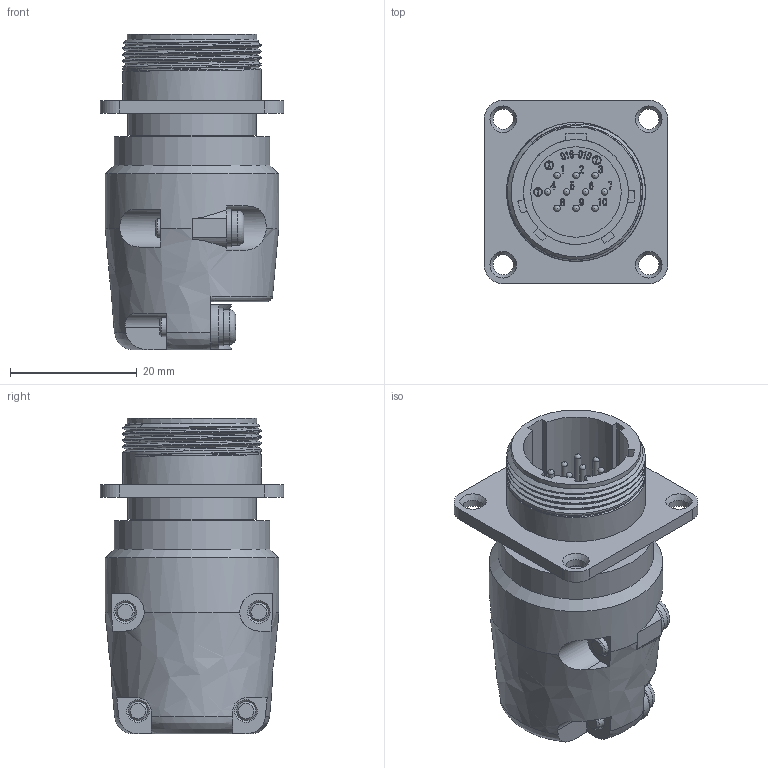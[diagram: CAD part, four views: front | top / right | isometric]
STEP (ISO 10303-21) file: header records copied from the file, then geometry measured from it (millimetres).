
FILE_DESCRIPTION (( 'STEP AP203' ), '1' );
FILE_NAME ('JMWR1610MM-D.STEP', '2021-07-19T08:25:53', ( '' ), ( '' ), 'SwSTEP 2.0', 'SolidWorks 2018', '' );
FILE_SCHEMA (( 'CONFIG_CONTROL_DESIGN' ));
Products named in the file (1): JMWR1610MM-D
Bounding box: 29 x 29 x 49.9 mm (x, y, z)
Volume: 13052.2 mm3; surface area: 10732.9 mm2
Topology: 1 solids, 1 shells, 1096 faces, 2957 edges, 1940 vertices
Faces by surface type: plane 473, bspline 413, cylinder 157, cone 31, torus 12, sphere 10
Full cylindrical faces by diameter (mm): 1 x10, 1.1 x10, 1.2 x4, 1.4 x4, 1.55 x10, 3 x4, 3.2 x4, 5.5 x4, 13.9 x1, 14.3 x1, 15.9 x1, 16.6 x1, 18.8 x2, 20.3 x1, 20.5 x1, 21.96 x4, 22 x1, 24.6 x1, 27.4 x1
Entity records: 52741 total; most frequent: CARTESIAN_POINT 28919, ORIENTED_EDGE 5576, DIRECTION 3512, EDGE_CURVE 2788, VERTEX_POINT 1880, VECTOR 1432, LINE 1432, EDGE_LOOP 1282
